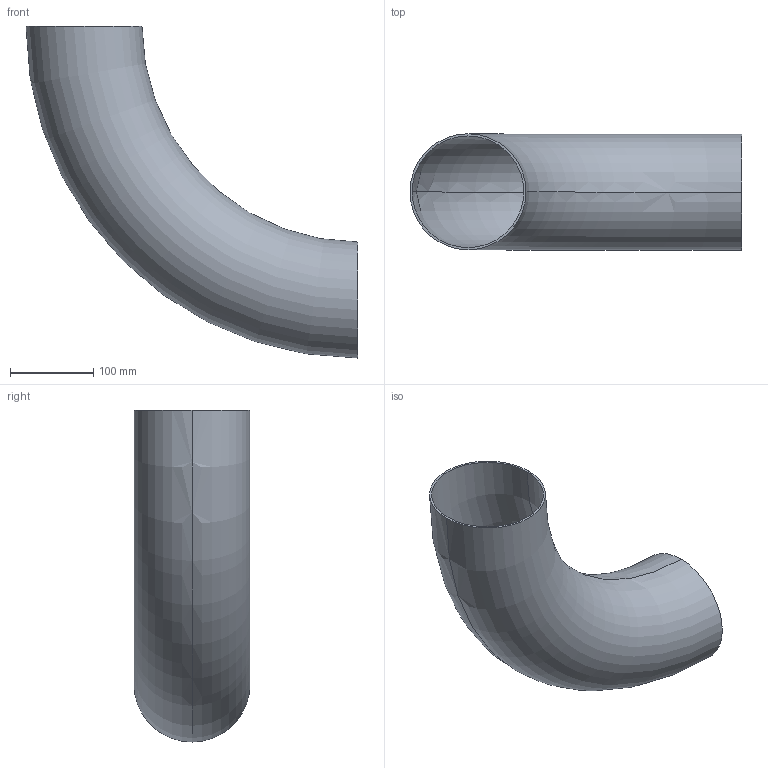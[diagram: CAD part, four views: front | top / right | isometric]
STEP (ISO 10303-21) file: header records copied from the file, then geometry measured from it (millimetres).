
FILE_DESCRIPTION (( 'STEP AP203' ), '1' );
FILE_NAME ('3D_R1655_139.7x2.6_17362330.STEP', '2024-08-05T09:22:42', ( '' ), ( '' ), 'SwSTEP 2.0', 'SolidWorks 2024', '' );
FILE_SCHEMA (( 'CONFIG_CONTROL_DESIGN' ));
Length unit declared in the file: millimetre
Products named in the file (1): 3D_R1655_139.7x2.6_17362330
Bounding box: 399.85 x 139.7 x 399.85 mm (x, y, z)
Volume: 580489.7 mm3; surface area: 448770.2 mm2
Topology: 1 solids, 1 shells, 6 faces, 12 edges, 8 vertices
Faces by surface type: torus 4, plane 2
Entity records: 249 total; most frequent: DIRECTION 38, CARTESIAN_POINT 27, ORIENTED_EDGE 24, AXIS2_PLACEMENT_3D 19, CIRCLE 12, EDGE_CURVE 12, PERSON_AND_ORGANIZATION 8, VERTEX_POINT 8
